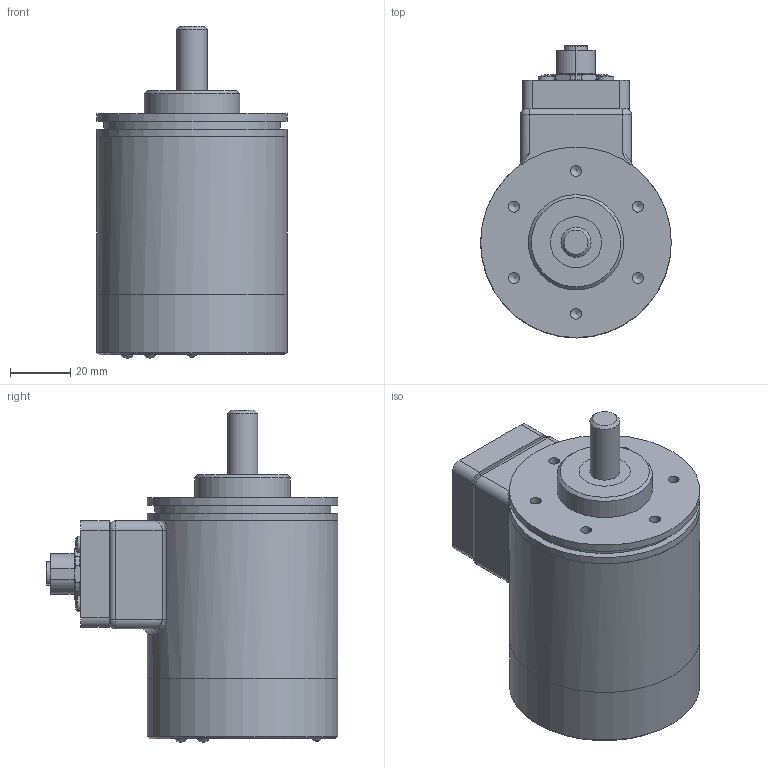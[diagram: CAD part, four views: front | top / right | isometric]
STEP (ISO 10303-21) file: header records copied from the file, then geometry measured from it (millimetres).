
FILE_DESCRIPTION(/* description */ ('Alibre Inc.'),/* implementation_level */ '2;1');
FILE_NAME(/* name */ 'export0',/* time_stamp */ '2010-05-25T09:17:06-04:00',/* author */ (''),/* organization */ (''),/* preprocessor_version */ 'ST-DEVELOPER v10',/* originating_system */ 'Alibre',/* authorisation */ '');
FILE_SCHEMA (('CONFIG_CONTROL_DESIGN'));
Length unit declared in the file: centimetre
Products named in the file (14): ID_1; ID_2; ID_3; ID_4; ID_5; ID_6; ID_7; ID_8; ID_9; ID_10; ID_11
Bounding box: 63.5 x 97.22 x 110.63 mm (x, y, z)
Volume: 291399 mm3; surface area: 52763.9 mm2
Topology: 15 solids, 15 shells, 339 faces, 745 edges, 479 vertices
Faces by surface type: plane 108, cylinder 105, bspline 72, cone 42, torus 8, sphere 4
Full cylindrical faces by diameter (mm): 2.87 x4, 2.92 x2, 3 x21, 3.65 x6, 3.96 x4, 5.44 x4, 10 x3, 11.5 x2, 17 x2, 24 x1, 26 x2, 31.75 x1, 58.674 x1, 58.72 x2, 63.5 x4
Entity records: 9239 total; most frequent: CARTESIAN_POINT 2333, DIRECTION 1100, ORIENTED_EDGE 988, AXIS2_PLACEMENT_3D 517, EDGE_CURVE 494, FACE_BOUND 391, EDGE_LOOP 385, VERTEX_POINT 357
